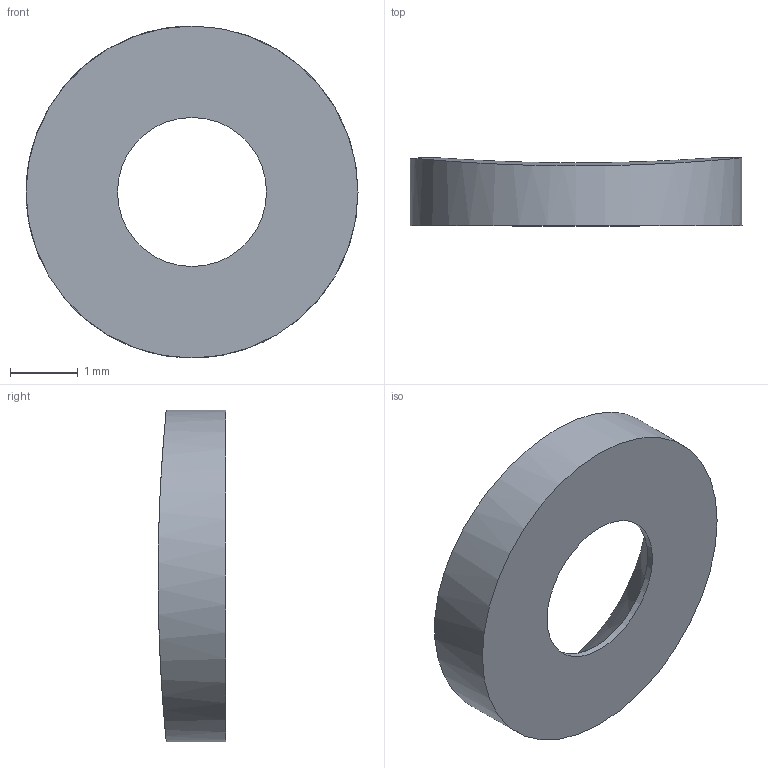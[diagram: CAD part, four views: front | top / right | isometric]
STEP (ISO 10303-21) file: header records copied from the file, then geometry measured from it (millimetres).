
FILE_DESCRIPTION(('SkyG Speed 120B - revision C7B-1 - 2026-10-09','CW-countersunk-washer'),'2;1');
FILE_NAME('CW-countersunk-washer_C7B-1','2026-10-09T15:13:01',('Author'),( 'Open CASCADE'),'Open CASCADE STEP processor 7.9','Open CASCADE 7.9' ,'Unknown');
FILE_SCHEMA(('AUTOMOTIVE_DESIGN { 1 0 10303 214 1 1 1 1 }'));
Length unit declared in the file: millimetre
Products named in the file (1): CW-countersunk-washer C7B-1
Bounding box: 4.9 x 1 x 4.9 mm (x, y, z)
Volume: 11.2 mm3; surface area: 48.7 mm2
Topology: 1 solids, 1 shells, 9 faces, 20 edges, 13 vertices
Faces by surface type: cylinder 5, plane 3, cone 1
Full cylindrical faces by diameter (mm): 2.2 x1, 4.9 x1
Entity records: 2331 total; most frequent: CARTESIAN_POINT 1939, DIRECTION 61, ORIENTED_EDGE 40, PCURVE 40, DEFINITIONAL_REPRESENTATION 40, B_SPLINE_CURVE_WITH_KNOTS 26, LINE 21, VECTOR 21
